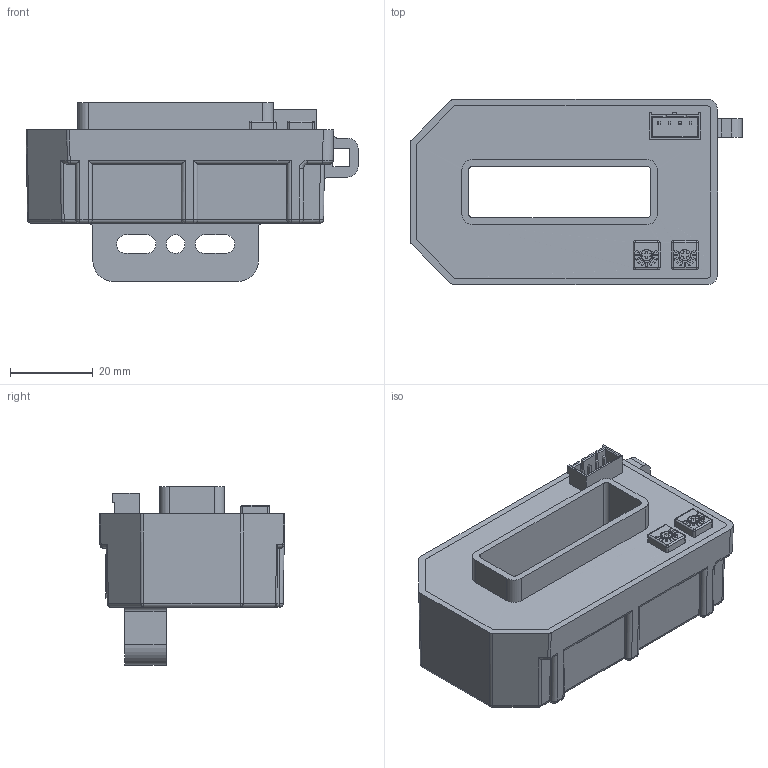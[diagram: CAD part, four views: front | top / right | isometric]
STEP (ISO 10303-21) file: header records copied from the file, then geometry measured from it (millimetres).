
FILE_DESCRIPTION(('Creo Elements/Direct Modeling STEP Export'),'2;1');
FILE_NAME('70.E7.60.000.0-01.stp','2024-11-19T14:22:04',(''),(''),'Creo Elements/Direct Modeling STEP processor for AP214 (Solid Model)','Creo Elements/Direct Modeling 20.3D 14-Nov-2022 (C) Parametric Technology GmbH','');
FILE_SCHEMA(('AUTOMOTIVE_DESIGN { 1 0 10303 214 1 1 1 1 }'));
Length unit declared in the file: millimetre
Products named in the file (2): CASE; Blackbox-HAN
Assembly tree (1 placements, depth 2):
  Blackbox-HAN
    CASE
Bounding box: 80.19 x 44.79 x 43.2 mm (x, y, z)
Volume: 59499.8 mm3; surface area: 22588 mm2
Topology: 1 solids, 2 shells, 427 faces, 1091 edges, 690 vertices
Faces by surface type: plane 248, cylinder 148, sphere 14, torus 8, extrusion 6, bspline 3
Entity records: 14691 total; most frequent: CARTESIAN_POINT 2651, ORIENTED_EDGE 2154, DIRECTION 2139, EDGE_CURVE 1077, VECTOR 767, LINE 761, VERTEX_POINT 690, AXIS2_PLACEMENT_3D 686
